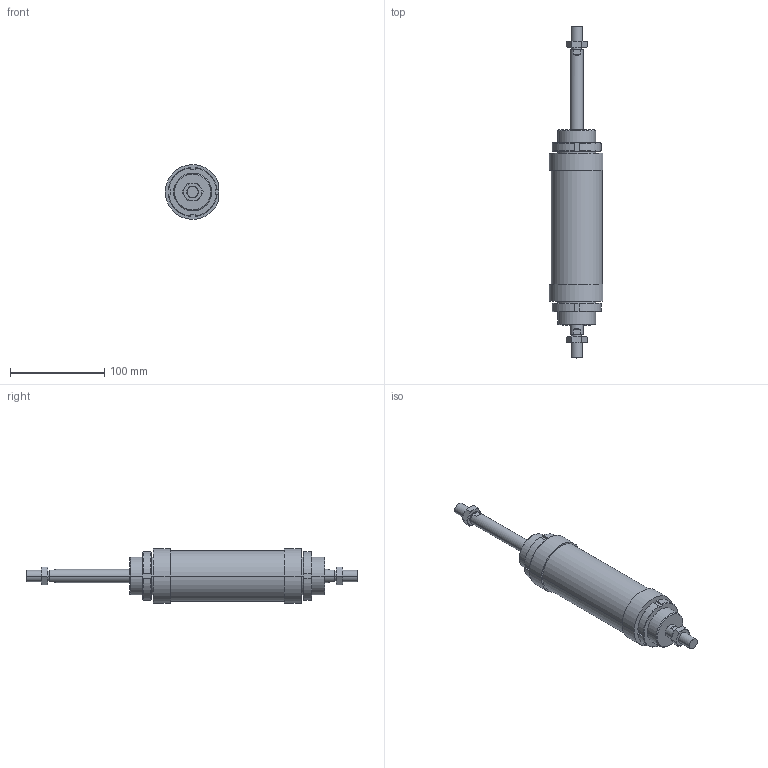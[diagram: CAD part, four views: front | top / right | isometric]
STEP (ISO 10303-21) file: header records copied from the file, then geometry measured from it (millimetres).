
FILE_DESCRIPTION((''),'2;1');
FILE_NAME('I:\DOC-EDP\Lib-3d\1200\CILINDRI\1262\1262_50_0075.stp','2003-04-02T19:15:21',('maffial1'),(''),'Autodesk Inventor (R) 6.0','Autodesk Inventor (R) 6.0','');
FILE_SCHEMA(('AUTOMOTIVE_DESIGN { 1 0 10303 214 1 1 1 1 }'));
Length unit declared in the file: millimetre
Products named in the file (5): 1262_50_0075; S1262_50_75; C1262_50_75; 1200_50_05; 1200_50_06
Assembly tree (6 placements, depth 2):
  1262_50_0075
    S1262_50_75
    C1262_50_75
    1200_50_05  x2
    1200_50_06  x2
Bounding box: 56.6 x 352 x 57.85 mm (x, y, z)
Volume: 470933.2 mm3; surface area: 75201.6 mm2
Topology: 6 solids, 6 shells, 182 faces, 424 edges, 264 vertices
Faces by surface type: plane 66, cone 56, cylinder 30, bspline 30
Entity records: 3737 total; most frequent: CARTESIAN_POINT 969, DIRECTION 572, ORIENTED_EDGE 548, EDGE_CURVE 274, AXIS2_PLACEMENT_3D 227, VERTEX_POINT 172, EDGE_LOOP 136, FACE_OUTER_BOUND 120
